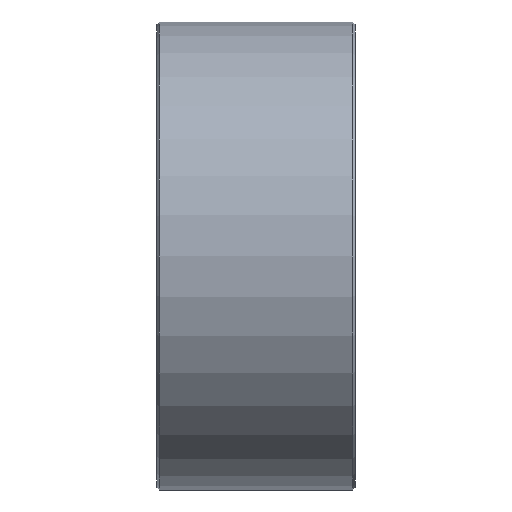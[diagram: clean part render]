
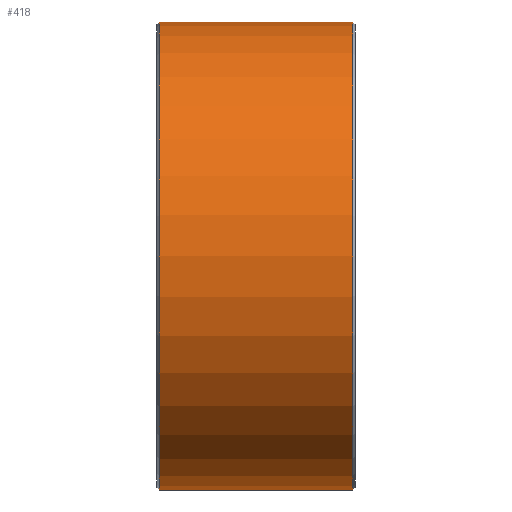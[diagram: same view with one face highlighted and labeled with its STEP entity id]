
A CAD part, front view. The second image highlights one B-rep face of the part: STEP entity #418.
In plain terms, the highlighted cylindrical face has radius 70.9 mm (diameter 141.8 mm), a full revolution.
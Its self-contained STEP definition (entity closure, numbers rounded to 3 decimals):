
#13=B_SPLINE_CURVE_WITH_KNOTS('',3,(#676,#677,#678,#679,#680,#681,#682,
#683,#684,#685,#686,#687,#688,#689,#690,#691,#692,#693,#694,#695,#696,#697),
 .UNSPECIFIED.,.F.,.F.,(4,2,2,2,2,2,2,2,2,2,4),(0.,0.196,0.392,
0.588,0.784,0.98,1.176,1.372,
1.568,1.764,1.949),.UNSPECIFIED.);
#14=B_SPLINE_CURVE_WITH_KNOTS('',3,(#698,#699,#700,#701,#702,#703),
 .UNSPECIFIED.,.F.,.F.,(4,2,4),(2.754,2.939,3.135),
 .UNSPECIFIED.);
#15=B_SPLINE_CURVE_WITH_KNOTS('',3,(#715,#716,#717,#718,#719,#720,#721,
#722,#723,#724,#725,#726,#727,#728,#729,#730,#731,#732,#733,#734,#735,#736),
 .UNSPECIFIED.,.F.,.F.,(4,2,2,2,2,2,2,2,2,2,4),(1.186,1.372,
1.568,1.764,1.96,2.155,2.351,
2.547,2.743,2.939,3.135),
 .UNSPECIFIED.);
#16=B_SPLINE_CURVE_WITH_KNOTS('',3,(#737,#738,#739,#740,#741,#742),
 .UNSPECIFIED.,.F.,.F.,(4,2,4),(0.,0.196,0.381),
 .UNSPECIFIED.);
#21=LINE('',#651,#33);
#22=LINE('',#654,#34);
#26=LINE('',#664,#38);
#30=LINE('',#671,#42);
#33=VECTOR('',#518,24.949);
#34=VECTOR('',#521,9.846);
#38=VECTOR('',#531,24.949);
#42=VECTOR('',#537,9.846);
#66=FACE_OUTER_BOUND('',#136,.T.);
#82=CYLINDRICAL_SURFACE('',#462,70.9);
#97=FACE_BOUND('',#137,.T.);
#98=FACE_BOUND('',#138,.T.);
#136=EDGE_LOOP('',(#317));
#137=EDGE_LOOP('',(#318,#319,#320,#321,#322,#323,#324,#325));
#138=EDGE_LOOP('',(#326));
#178=CIRCLE('',#463,70.9);
#179=CIRCLE('',#464,70.9);
#193=VERTEX_POINT('',#620);
#195=VERTEX_POINT('',#625);
#200=VERTEX_POINT('',#649);
#201=VERTEX_POINT('',#653);
#204=VERTEX_POINT('',#663);
#206=VERTEX_POINT('',#669);
#207=VERTEX_POINT('',#675);
#211=VERTEX_POINT('',#712);
#212=VERTEX_POINT('',#714);
#213=VERTEX_POINT('',#743);
#238=EDGE_CURVE('',#193,#200,#21,.T.);
#239=EDGE_CURVE('',#201,#193,#22,.T.);
#244=EDGE_CURVE('',#204,#195,#26,.T.);
#248=EDGE_CURVE('',#195,#206,#30,.T.);
#250=EDGE_CURVE('',#207,#204,#13,.T.);
#251=EDGE_CURVE('',#200,#207,#14,.T.);
#255=EDGE_CURVE('',#211,#211,#178,.T.);
#256=EDGE_CURVE('',#206,#212,#15,.T.);
#257=EDGE_CURVE('',#212,#201,#16,.T.);
#258=EDGE_CURVE('',#213,#213,#179,.T.);
#317=ORIENTED_EDGE('',*,*,#255,.T.);
#318=ORIENTED_EDGE('',*,*,#238,.T.);
#319=ORIENTED_EDGE('',*,*,#251,.T.);
#320=ORIENTED_EDGE('',*,*,#250,.T.);
#321=ORIENTED_EDGE('',*,*,#244,.T.);
#322=ORIENTED_EDGE('',*,*,#248,.T.);
#323=ORIENTED_EDGE('',*,*,#256,.T.);
#324=ORIENTED_EDGE('',*,*,#257,.T.);
#325=ORIENTED_EDGE('',*,*,#239,.T.);
#326=ORIENTED_EDGE('',*,*,#258,.F.);
#418=ADVANCED_FACE('',(#66,#97,#98),#82,.T.);
#462=AXIS2_PLACEMENT_3D('',#711,#552,#553);
#463=AXIS2_PLACEMENT_3D('',#713,#554,#555);
#464=AXIS2_PLACEMENT_3D('',#744,#556,#557);
#518=DIRECTION('',(1.,0.,0.));
#521=DIRECTION('',(1.,0.,0.));
#531=DIRECTION('',(-1.,0.,0.));
#537=DIRECTION('',(-1.,0.,0.));
#552=DIRECTION('center_axis',(1.,0.,0.));
#553=DIRECTION('ref_axis',(0.,1.,0.));
#554=DIRECTION('center_axis',(1.,0.,0.));
#555=DIRECTION('ref_axis',(0.,1.,0.));
#556=DIRECTION('center_axis',(1.,0.,0.));
#557=DIRECTION('ref_axis',(0.,1.,0.));
#620=CARTESIAN_POINT('',(-7.552,70.801,-3.75));
#625=CARTESIAN_POINT('',(-7.552,70.801,3.75));
#649=CARTESIAN_POINT('',(17.398,70.801,-3.75));
#651=CARTESIAN_POINT('',(0.,70.801,-3.75));
#653=CARTESIAN_POINT('',(-17.398,70.801,-3.75));
#654=CARTESIAN_POINT('',(0.,70.801,-3.75));
#663=CARTESIAN_POINT('',(17.398,70.801,3.75));
#664=CARTESIAN_POINT('',(0.,70.801,3.75));
#669=CARTESIAN_POINT('',(-17.398,70.801,3.75));
#671=CARTESIAN_POINT('',(0.,70.801,3.75));
#675=CARTESIAN_POINT('',(21.,70.709,-5.2));
#676=CARTESIAN_POINT('Ctrl Pts',(21.,70.709,-5.2));
#677=CARTESIAN_POINT('Ctrl Pts',(21.653,70.709,-5.2));
#678=CARTESIAN_POINT('Ctrl Pts',(22.35,70.719,-5.069));
#679=CARTESIAN_POINT('Ctrl Pts',(23.631,70.755,-4.539));
#680=CARTESIAN_POINT('Ctrl Pts',(24.215,70.781,-4.139));
#681=CARTESIAN_POINT('Ctrl Pts',(25.139,70.829,-3.215));
#682=CARTESIAN_POINT('Ctrl Pts',(25.539,70.854,-2.631));
#683=CARTESIAN_POINT('Ctrl Pts',(26.069,70.89,-1.35));
#684=CARTESIAN_POINT('Ctrl Pts',(26.2,70.9,-0.653));
#685=CARTESIAN_POINT('Ctrl Pts',(26.2,70.9,0.653));
#686=CARTESIAN_POINT('Ctrl Pts',(26.069,70.89,1.35));
#687=CARTESIAN_POINT('Ctrl Pts',(25.539,70.854,2.631));
#688=CARTESIAN_POINT('Ctrl Pts',(25.139,70.829,3.215));
#689=CARTESIAN_POINT('Ctrl Pts',(24.215,70.781,4.139));
#690=CARTESIAN_POINT('Ctrl Pts',(23.631,70.755,4.539));
#691=CARTESIAN_POINT('Ctrl Pts',(22.35,70.719,5.069));
#692=CARTESIAN_POINT('Ctrl Pts',(21.653,70.709,5.2));
#693=CARTESIAN_POINT('Ctrl Pts',(20.347,70.709,5.2));
#694=CARTESIAN_POINT('Ctrl Pts',(19.65,70.719,5.069));
#695=CARTESIAN_POINT('Ctrl Pts',(18.403,70.754,4.553));
#696=CARTESIAN_POINT('Ctrl Pts',(17.846,70.778,4.181));
#697=CARTESIAN_POINT('Ctrl Pts',(17.398,70.801,3.75));
#698=CARTESIAN_POINT('Ctrl Pts',(17.398,70.801,-3.75));
#699=CARTESIAN_POINT('Ctrl Pts',(17.846,70.778,-4.181));
#700=CARTESIAN_POINT('Ctrl Pts',(18.403,70.754,-4.553));
#701=CARTESIAN_POINT('Ctrl Pts',(19.65,70.719,-5.069));
#702=CARTESIAN_POINT('Ctrl Pts',(20.347,70.709,-5.2));
#703=CARTESIAN_POINT('Ctrl Pts',(21.,70.709,-5.2));
#711=CARTESIAN_POINT('Origin',(0.,0.,0.));
#712=CARTESIAN_POINT('',(-29.293,70.9,0.));
#713=CARTESIAN_POINT('Origin',(-29.293,0.,0.));
#714=CARTESIAN_POINT('',(-21.,70.709,-5.2));
#715=CARTESIAN_POINT('Ctrl Pts',(-17.398,70.801,3.75));
#716=CARTESIAN_POINT('Ctrl Pts',(-17.846,70.778,4.181));
#717=CARTESIAN_POINT('Ctrl Pts',(-18.403,70.754,4.553));
#718=CARTESIAN_POINT('Ctrl Pts',(-19.65,70.719,5.069));
#719=CARTESIAN_POINT('Ctrl Pts',(-20.347,70.709,5.2));
#720=CARTESIAN_POINT('Ctrl Pts',(-21.653,70.709,5.2));
#721=CARTESIAN_POINT('Ctrl Pts',(-22.35,70.719,5.069));
#722=CARTESIAN_POINT('Ctrl Pts',(-23.631,70.755,4.539));
#723=CARTESIAN_POINT('Ctrl Pts',(-24.215,70.781,4.139));
#724=CARTESIAN_POINT('Ctrl Pts',(-25.139,70.829,3.215));
#725=CARTESIAN_POINT('Ctrl Pts',(-25.539,70.854,2.631));
#726=CARTESIAN_POINT('Ctrl Pts',(-26.069,70.89,1.35));
#727=CARTESIAN_POINT('Ctrl Pts',(-26.2,70.9,0.653));
#728=CARTESIAN_POINT('Ctrl Pts',(-26.2,70.9,-0.653));
#729=CARTESIAN_POINT('Ctrl Pts',(-26.069,70.89,-1.35));
#730=CARTESIAN_POINT('Ctrl Pts',(-25.539,70.854,-2.631));
#731=CARTESIAN_POINT('Ctrl Pts',(-25.139,70.829,-3.215));
#732=CARTESIAN_POINT('Ctrl Pts',(-24.215,70.781,-4.139));
#733=CARTESIAN_POINT('Ctrl Pts',(-23.631,70.755,-4.539));
#734=CARTESIAN_POINT('Ctrl Pts',(-22.35,70.719,-5.069));
#735=CARTESIAN_POINT('Ctrl Pts',(-21.653,70.709,-5.2));
#736=CARTESIAN_POINT('Ctrl Pts',(-21.,70.709,-5.2));
#737=CARTESIAN_POINT('Ctrl Pts',(-21.,70.709,-5.2));
#738=CARTESIAN_POINT('Ctrl Pts',(-20.347,70.709,-5.2));
#739=CARTESIAN_POINT('Ctrl Pts',(-19.65,70.719,-5.069));
#740=CARTESIAN_POINT('Ctrl Pts',(-18.403,70.754,-4.553));
#741=CARTESIAN_POINT('Ctrl Pts',(-17.846,70.778,-4.181));
#742=CARTESIAN_POINT('Ctrl Pts',(-17.398,70.801,-3.75));
#743=CARTESIAN_POINT('',(29.293,70.9,0.));
#744=CARTESIAN_POINT('Origin',(29.293,0.,0.));
